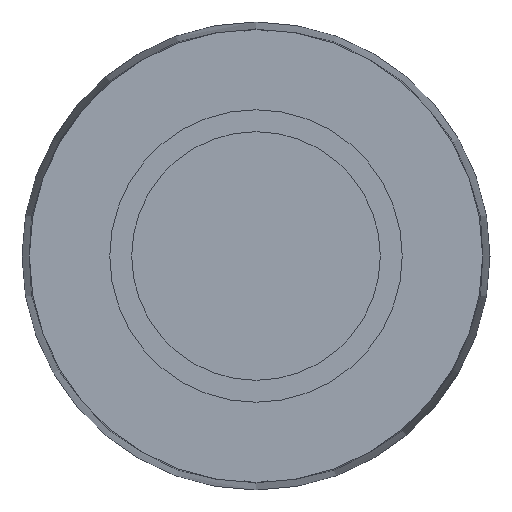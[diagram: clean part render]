
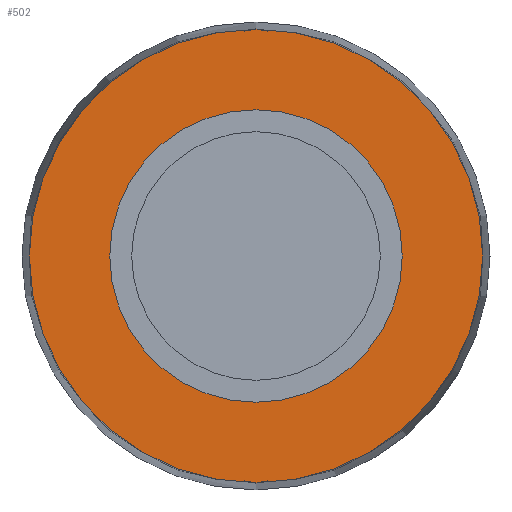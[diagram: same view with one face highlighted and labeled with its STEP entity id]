
A CAD part, left-side view. The second image highlights one B-rep face of the part: STEP entity #502.
In plain terms, the highlighted planar face has unit normal (-1, 0, 0).
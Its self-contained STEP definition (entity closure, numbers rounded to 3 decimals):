
#102 = VERTEX_POINT ( 'NONE', #144 ) ;
#144 = CARTESIAN_POINT ( 'NONE',  ( -154., 0., -10. ) ) ;
#163 = CARTESIAN_POINT ( 'NONE',  ( -154., 0., 0. ) ) ;
#169 = DIRECTION ( 'NONE',  ( 0., 0., 1. ) ) ;
#175 = DIRECTION ( 'NONE',  ( -1., 0., 0. ) ) ;
#197 = ORIENTED_EDGE ( 'NONE', *, *, #292, .T. ) ;
#206 = EDGE_CURVE ( 'NONE', #585, #233, #439, .T. ) ;
#233 = VERTEX_POINT ( 'NONE', #393 ) ;
#240 = ORIENTED_EDGE ( 'NONE', *, *, #945, .F. ) ;
#256 = FACE_OUTER_BOUND ( 'NONE', #919, .T. ) ;
#257 = CIRCLE ( 'NONE', #370, 10. ) ;
#287 = DIRECTION ( 'NONE',  ( 0., 0., 1. ) ) ;
#292 = EDGE_CURVE ( 'NONE', #233, #585, #968, .T. ) ;
#322 = CIRCLE ( 'NONE', #787, 10. ) ;
#362 = DIRECTION ( 'NONE',  ( -1., 0., 0. ) ) ;
#370 = AXIS2_PLACEMENT_3D ( 'NONE', #805, #878, #287 ) ;
#393 = CARTESIAN_POINT ( 'NONE',  ( -154., 0., -15.5 ) ) ;
#425 = AXIS2_PLACEMENT_3D ( 'NONE', #803, #362, #727 ) ;
#439 = CIRCLE ( 'NONE', #901, 15.5 ) ;
#442 = EDGE_LOOP ( 'NONE', ( #240, #857 ) ) ;
#462 = DIRECTION ( 'NONE',  ( -1., 0., 0. ) ) ;
#483 = DIRECTION ( 'NONE',  ( -1., 0., 0. ) ) ;
#502 = ADVANCED_FACE ( 'NONE', ( #256, #893 ), #804, .T. ) ;
#548 = CARTESIAN_POINT ( 'NONE',  ( -154., 0., 0. ) ) ;
#581 = EDGE_CURVE ( 'NONE', #102, #905, #257, .T. ) ;
#585 = VERTEX_POINT ( 'NONE', #874 ) ;
#608 = DIRECTION ( 'NONE',  ( 0., 0., 1. ) ) ;
#615 = CARTESIAN_POINT ( 'NONE',  ( -154., 0., 0. ) ) ;
#727 = DIRECTION ( 'NONE',  ( 0., 0., 1. ) ) ;
#763 = DIRECTION ( 'NONE',  ( 0., 0., 1. ) ) ;
#787 = AXIS2_PLACEMENT_3D ( 'NONE', #163, #175, #763 ) ;
#803 = CARTESIAN_POINT ( 'NONE',  ( -154., -10., 0. ) ) ;
#804 = PLANE ( 'NONE',  #425 ) ;
#805 = CARTESIAN_POINT ( 'NONE',  ( -154., 0., 0. ) ) ;
#810 = CARTESIAN_POINT ( 'NONE',  ( -154., 0., 10. ) ) ;
#857 = ORIENTED_EDGE ( 'NONE', *, *, #581, .F. ) ;
#874 = CARTESIAN_POINT ( 'NONE',  ( -154., 0., 15.5 ) ) ;
#878 = DIRECTION ( 'NONE',  ( -1., 0., 0. ) ) ;
#891 = ORIENTED_EDGE ( 'NONE', *, *, #206, .T. ) ;
#893 = FACE_BOUND ( 'NONE', #442, .T. ) ;
#901 = AXIS2_PLACEMENT_3D ( 'NONE', #615, #462, #608 ) ;
#905 = VERTEX_POINT ( 'NONE', #810 ) ;
#919 = EDGE_LOOP ( 'NONE', ( #197, #891 ) ) ;
#932 = AXIS2_PLACEMENT_3D ( 'NONE', #548, #483, #169 ) ;
#945 = EDGE_CURVE ( 'NONE', #905, #102, #322, .T. ) ;
#968 = CIRCLE ( 'NONE', #932, 15.5 ) ;
